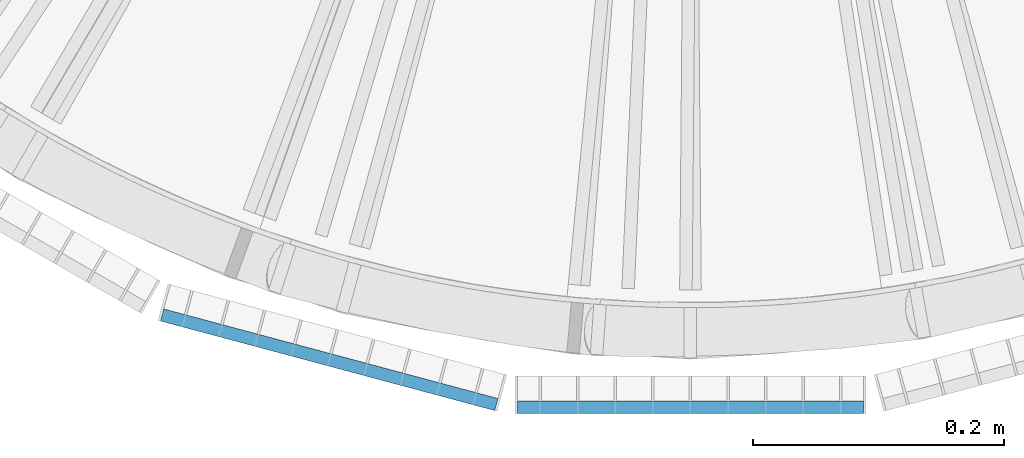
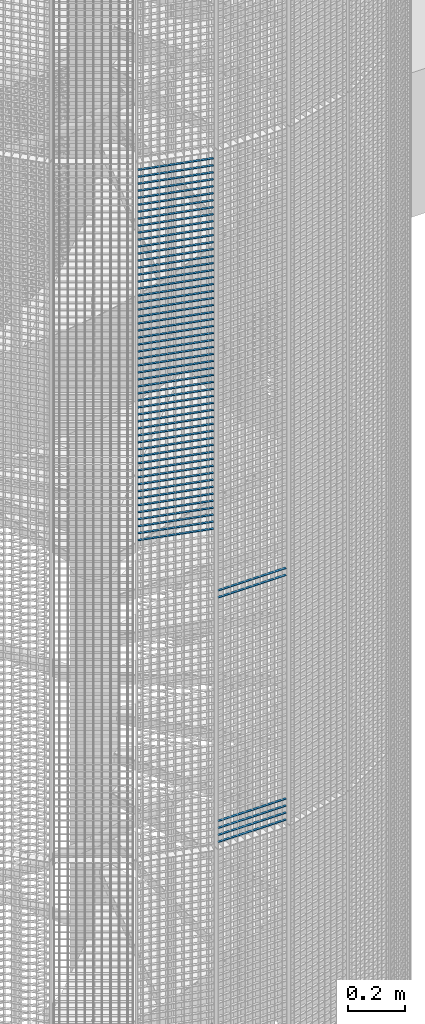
# One storey, part 156 of 1148: 60 beams, 2 elements without a shape of their own.
"""IFC2X3 building model written with IfcOpenShell, lengths in millimetres."""

from ifc_helpers import new_model, si_unit, frame, origin_with_axes, origin_2d_with_axis, place, context, subcontext, project, spatial, rectangle, extrude, material, type_object, element, aggregate, save


model = new_model("IFC2X3")

# Units and contexts
model_context = context("Model", 3, precision=1e-05, world=origin_with_axes())
body_context = subcontext(model_context, "Body", "Model", "MODEL_VIEW")
ifc_project = project(units=[si_unit("LENGTHUNIT", "METRE", prefix="MILLI"), si_unit("AREAUNIT", "SQUARE_METRE"), si_unit("VOLUMEUNIT", "CUBIC_METRE"), si_unit("MASSUNIT", "GRAM", prefix="KILO"), si_unit("TIMEUNIT", "SECOND"), si_unit("PLANEANGLEUNIT", "RADIAN"), si_unit("SOLIDANGLEUNIT", "STERADIAN"), si_unit("THERMODYNAMICTEMPERATUREUNIT", "DEGREE_CELSIUS"), si_unit("LUMINOUSINTENSITYUNIT", "LUMEN")], contexts=[model_context])

# Site, building, storey
site_placement = place(None, origin_with_axes())
site = spatial("IfcSite", under=ifc_project, at=site_placement, Name="Undefined", CompositionType="ELEMENT")
building_placement = place(site_placement, origin_with_axes())
building = spatial("IfcBuilding", under=site, at=building_placement, Name="Undefined", CompositionType="ELEMENT")
storey_placement = place(building_placement, origin_with_axes())
storey = spatial("IfcBuildingStorey", under=building, at=storey_placement, Name="Undefined", CompositionType="ELEMENT", Elevation=0.0)

# Assembly, beams
assembly_1_placement = place(storey_placement, origin_with_axes())
assembly_1 = element("IfcElementAssembly", 1, at=assembly_1_placement, inside=storey, Name="BORDURE", AssemblyPlace="NOTDEFINED", PredefinedType="NOTDEFINED")
ifc_material = material(Name="STEEL/S235JR")
beam_type = type_object("IfcBeamType", Name="PL2*10", PredefinedType="NOTDEFINED")
beam_1_placement = place(assembly_1_placement, frame((-137.996003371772, -1113.47999999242, 6120.0), z_axis=(0.0, -1.0, 0.0), x_axis=(1.0, 0.0, 0.0)))
beam_1 = element("IfcBeam", 2, at=beam_1_placement, type_object=beam_type, material=ifc_material, Name="ENTRETOISE", context=body_context, shape_type="SweptSolid", body=[
    extrude(rectangle(XDim=2.0, YDim=10.0, at=origin_2d_with_axis()), frame((275.999999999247, 9.09494701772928e-13, 1.53210777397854e-14), z_axis=(-1.0, 0.0, 0.0), x_axis=(0.0, -1.0, 0.0)), (0.0, 0.0, 1.0), 276.0),
])
beam_2_placement = place(assembly_1_placement, frame((-137.996003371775, -1113.47999999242, 7080.0), z_axis=(0.0, -1.0, 0.0), x_axis=(1.0, 0.0, 0.0)))
beam_2 = element("IfcBeam", 3, at=beam_2_placement, type_object=beam_type, material=ifc_material, Name="ENTRETOISE", context=body_context, shape_type="SweptSolid", body=[
    extrude(rectangle(XDim=2.0, YDim=10.0, at=origin_2d_with_axis()), frame((275.999999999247, 9.09494701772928e-13, 1.53210777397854e-14), z_axis=(-1.0, 0.0, 0.0), x_axis=(0.0, -1.0, 0.0)), (0.0, 0.0, 1.0), 276.0),
])
beam_3_placement = place(assembly_1_placement, frame((-137.996003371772, -1113.47999999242, 6090.0), z_axis=(0.0, -1.0, 0.0), x_axis=(1.0, 0.0, 0.0)))
beam_3 = element("IfcBeam", 4, at=beam_3_placement, type_object=beam_type, material=ifc_material, Name="ENTRETOISE", context=body_context, shape_type="SweptSolid", body=[
    extrude(rectangle(XDim=2.0, YDim=10.0, at=origin_2d_with_axis()), frame((275.999999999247, 9.09494701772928e-13, 1.53210777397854e-14), z_axis=(-1.0, 0.0, 0.0), x_axis=(0.0, -1.0, 0.0)), (0.0, 0.0, 1.0), 276.0),
])
beam_4_placement = place(assembly_1_placement, frame((-137.996003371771, -1113.47999999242, 6060.0), z_axis=(0.0, -1.0, 0.0), x_axis=(1.0, 0.0, 0.0)))
beam_4 = element("IfcBeam", 5, at=beam_4_placement, type_object=beam_type, material=ifc_material, Name="ENTRETOISE", context=body_context, shape_type="SweptSolid", body=[
    extrude(rectangle(XDim=2.0, YDim=10.0, at=origin_2d_with_axis()), frame((275.999999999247, 9.09494701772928e-13, 1.53210777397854e-14), z_axis=(-1.0, 0.0, 0.0), x_axis=(0.0, -1.0, 0.0)), (0.0, 0.0, 1.0), 276.0),
])
beam_5_placement = place(assembly_1_placement, frame((-137.996003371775, -1113.47999999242, 7110.0), z_axis=(0.0, -1.0, 0.0), x_axis=(1.0, 0.0, 0.0)))
beam_5 = element("IfcBeam", 6, at=beam_5_placement, type_object=beam_type, material=ifc_material, Name="ENTRETOISE", context=body_context, shape_type="SweptSolid", body=[
    extrude(rectangle(XDim=2.0, YDim=10.0, at=origin_2d_with_axis()), frame((275.999999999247, 9.09494701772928e-13, 1.53210777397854e-14), z_axis=(-1.0, 0.0, 0.0), x_axis=(0.0, -1.0, 0.0)), (0.0, 0.0, 1.0), 276.0),
])
beam_6_placement = place(assembly_1_placement, frame((-137.99600337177, -1113.47999999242, 6030.0), z_axis=(0.0, -1.0, 0.0), x_axis=(1.0, 0.0, 0.0)))
beam_6 = element("IfcBeam", 7, at=beam_6_placement, type_object=beam_type, material=ifc_material, Name="ENTRETOISE", context=body_context, shape_type="SweptSolid", body=[
    extrude(rectangle(XDim=2.0, YDim=10.0, at=origin_2d_with_axis()), frame((275.999999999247, 9.09494701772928e-13, 1.53210777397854e-14), z_axis=(-1.0, 0.0, 0.0), x_axis=(0.0, -1.0, 0.0)), (0.0, 0.0, 1.0), 276.0),
])
aggregate(assembly_1, [beam_1, beam_2, beam_3, beam_4, beam_5, beam_6])

assembly_2_placement = place(storey_placement, origin_with_axes())
assembly_2 = element("IfcElementAssembly", 8, at=assembly_2_placement, inside=storey, Name="BORDURE", AssemblyPlace="NOTDEFINED", PredefinedType="NOTDEFINED")
beam_7_placement = place(assembly_2_placement, frame((-421.483733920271, -1039.82309522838, 8970.0), z_axis=(-0.258819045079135, -0.965925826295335, 0.0), x_axis=(0.965925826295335, -0.258819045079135, 0.0)))
beam_7 = element("IfcBeam", 9, at=beam_7_placement, type_object=beam_type, material=ifc_material, Name="ENTRETOISE", context=body_context, shape_type="SweptSolid", body=[
    extrude(rectangle(XDim=2.0, YDim=10.0, at=origin_2d_with_axis()), frame((275.999999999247, 9.09494701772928e-13, 1.53210777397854e-14), z_axis=(-1.0, 0.0, 0.0), x_axis=(0.0, -1.0, 0.0)), (0.0, 0.0, 1.0), 276.0),
])
beam_8_placement = place(assembly_2_placement, frame((-421.483733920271, -1039.82309522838, 8940.0), z_axis=(-0.258819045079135, -0.965925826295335, 0.0), x_axis=(0.965925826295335, -0.258819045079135, 0.0)))
beam_8 = element("IfcBeam", 10, at=beam_8_placement, type_object=beam_type, material=ifc_material, Name="ENTRETOISE", context=body_context, shape_type="SweptSolid", body=[
    extrude(rectangle(XDim=2.0, YDim=10.0, at=origin_2d_with_axis()), frame((275.999999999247, 9.09494701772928e-13, 1.53210777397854e-14), z_axis=(-1.0, 0.0, 0.0), x_axis=(0.0, -1.0, 0.0)), (0.0, 0.0, 1.0), 276.0),
])
beam_9_placement = place(assembly_2_placement, frame((-421.483733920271, -1039.82309522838, 8910.0), z_axis=(-0.258819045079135, -0.965925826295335, 0.0), x_axis=(0.965925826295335, -0.258819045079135, 0.0)))
beam_9 = element("IfcBeam", 11, at=beam_9_placement, type_object=beam_type, material=ifc_material, Name="ENTRETOISE", context=body_context, shape_type="SweptSolid", body=[
    extrude(rectangle(XDim=2.0, YDim=10.0, at=origin_2d_with_axis()), frame((275.999999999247, 9.09494701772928e-13, 1.53210777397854e-14), z_axis=(-1.0, 0.0, 0.0), x_axis=(0.0, -1.0, 0.0)), (0.0, 0.0, 1.0), 276.0),
])
beam_10_placement = place(assembly_2_placement, frame((-421.483733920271, -1039.82309522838, 8880.0), z_axis=(-0.258819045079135, -0.965925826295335, 0.0), x_axis=(0.965925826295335, -0.258819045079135, 0.0)))
beam_10 = element("IfcBeam", 12, at=beam_10_placement, type_object=beam_type, material=ifc_material, Name="ENTRETOISE", context=body_context, shape_type="SweptSolid", body=[
    extrude(rectangle(XDim=2.0, YDim=10.0, at=origin_2d_with_axis()), frame((275.999999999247, 9.09494701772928e-13, 1.53210777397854e-14), z_axis=(-1.0, 0.0, 0.0), x_axis=(0.0, -1.0, 0.0)), (0.0, 0.0, 1.0), 276.0),
])
beam_11_placement = place(assembly_2_placement, frame((-421.483733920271, -1039.82309522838, 8850.0), z_axis=(-0.258819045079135, -0.965925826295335, 0.0), x_axis=(0.965925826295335, -0.258819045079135, 0.0)))
beam_11 = element("IfcBeam", 13, at=beam_11_placement, type_object=beam_type, material=ifc_material, Name="ENTRETOISE", context=body_context, shape_type="SweptSolid", body=[
    extrude(rectangle(XDim=2.0, YDim=10.0, at=origin_2d_with_axis()), frame((275.999999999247, 9.09494701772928e-13, 1.53210777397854e-14), z_axis=(-1.0, 0.0, 0.0), x_axis=(0.0, -1.0, 0.0)), (0.0, 0.0, 1.0), 276.0),
])
beam_12_placement = place(assembly_2_placement, frame((-421.483733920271, -1039.82309522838, 8820.0), z_axis=(-0.258819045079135, -0.965925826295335, 0.0), x_axis=(0.965925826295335, -0.258819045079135, 0.0)))
beam_12 = element("IfcBeam", 14, at=beam_12_placement, type_object=beam_type, material=ifc_material, Name="ENTRETOISE", context=body_context, shape_type="SweptSolid", body=[
    extrude(rectangle(XDim=2.0, YDim=10.0, at=origin_2d_with_axis()), frame((275.999999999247, 9.09494701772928e-13, 1.53210777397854e-14), z_axis=(-1.0, 0.0, 0.0), x_axis=(0.0, -1.0, 0.0)), (0.0, 0.0, 1.0), 276.0),
])
beam_13_placement = place(assembly_2_placement, frame((-421.483733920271, -1039.82309522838, 8790.0), z_axis=(-0.258819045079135, -0.965925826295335, 0.0), x_axis=(0.965925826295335, -0.258819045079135, 0.0)))
beam_13 = element("IfcBeam", 15, at=beam_13_placement, type_object=beam_type, material=ifc_material, Name="ENTRETOISE", context=body_context, shape_type="SweptSolid", body=[
    extrude(rectangle(XDim=2.0, YDim=10.0, at=origin_2d_with_axis()), frame((275.999999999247, 9.09494701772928e-13, 1.53210777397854e-14), z_axis=(-1.0, 0.0, 0.0), x_axis=(0.0, -1.0, 0.0)), (0.0, 0.0, 1.0), 276.0),
])
beam_14_placement = place(assembly_2_placement, frame((-421.483733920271, -1039.82309522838, 8760.0), z_axis=(-0.258819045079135, -0.965925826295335, 0.0), x_axis=(0.965925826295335, -0.258819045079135, 0.0)))
beam_14 = element("IfcBeam", 16, at=beam_14_placement, type_object=beam_type, material=ifc_material, Name="ENTRETOISE", context=body_context, shape_type="SweptSolid", body=[
    extrude(rectangle(XDim=2.0, YDim=10.0, at=origin_2d_with_axis()), frame((275.999999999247, 9.09494701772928e-13, 1.53210777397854e-14), z_axis=(-1.0, 0.0, 0.0), x_axis=(0.0, -1.0, 0.0)), (0.0, 0.0, 1.0), 276.0),
])
beam_15_placement = place(assembly_2_placement, frame((-421.483733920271, -1039.82309522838, 8730.0), z_axis=(-0.258819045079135, -0.965925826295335, 0.0), x_axis=(0.965925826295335, -0.258819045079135, 0.0)))
beam_15 = element("IfcBeam", 17, at=beam_15_placement, type_object=beam_type, material=ifc_material, Name="ENTRETOISE", context=body_context, shape_type="SweptSolid", body=[
    extrude(rectangle(XDim=2.0, YDim=10.0, at=origin_2d_with_axis()), frame((275.999999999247, 9.09494701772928e-13, 1.53210777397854e-14), z_axis=(-1.0, 0.0, 0.0), x_axis=(0.0, -1.0, 0.0)), (0.0, 0.0, 1.0), 276.0),
])
beam_16_placement = place(assembly_2_placement, frame((-421.48373392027, -1039.82309522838, 8700.0), z_axis=(-0.258819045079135, -0.965925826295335, 0.0), x_axis=(0.965925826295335, -0.258819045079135, 0.0)))
beam_16 = element("IfcBeam", 18, at=beam_16_placement, type_object=beam_type, material=ifc_material, Name="ENTRETOISE", context=body_context, shape_type="SweptSolid", body=[
    extrude(rectangle(XDim=2.0, YDim=10.0, at=origin_2d_with_axis()), frame((275.999999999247, 9.09494701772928e-13, 1.53210777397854e-14), z_axis=(-1.0, 0.0, 0.0), x_axis=(0.0, -1.0, 0.0)), (0.0, 0.0, 1.0), 276.0),
])
beam_17_placement = place(assembly_2_placement, frame((-421.48373392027, -1039.82309522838, 8670.0), z_axis=(-0.258819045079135, -0.965925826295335, 0.0), x_axis=(0.965925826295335, -0.258819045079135, 0.0)))
beam_17 = element("IfcBeam", 19, at=beam_17_placement, type_object=beam_type, material=ifc_material, Name="ENTRETOISE", context=body_context, shape_type="SweptSolid", body=[
    extrude(rectangle(XDim=2.0, YDim=10.0, at=origin_2d_with_axis()), frame((275.999999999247, 9.09494701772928e-13, 1.53210777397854e-14), z_axis=(-1.0, 0.0, 0.0), x_axis=(0.0, -1.0, 0.0)), (0.0, 0.0, 1.0), 276.0),
])
beam_18_placement = place(assembly_2_placement, frame((-421.48373392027, -1039.82309522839, 8640.0), z_axis=(-0.258819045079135, -0.965925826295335, 0.0), x_axis=(0.965925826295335, -0.258819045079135, 0.0)))
beam_18 = element("IfcBeam", 20, at=beam_18_placement, type_object=beam_type, material=ifc_material, Name="ENTRETOISE", context=body_context, shape_type="SweptSolid", body=[
    extrude(rectangle(XDim=2.0, YDim=10.0, at=origin_2d_with_axis()), frame((275.999999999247, 9.09494701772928e-13, 1.53210777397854e-14), z_axis=(-1.0, 0.0, 0.0), x_axis=(0.0, -1.0, 0.0)), (0.0, 0.0, 1.0), 276.0),
])
beam_19_placement = place(assembly_2_placement, frame((-421.48373392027, -1039.82309522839, 8610.0), z_axis=(-0.258819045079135, -0.965925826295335, 0.0), x_axis=(0.965925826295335, -0.258819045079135, 0.0)))
beam_19 = element("IfcBeam", 21, at=beam_19_placement, type_object=beam_type, material=ifc_material, Name="ENTRETOISE", context=body_context, shape_type="SweptSolid", body=[
    extrude(rectangle(XDim=2.0, YDim=10.0, at=origin_2d_with_axis()), frame((275.999999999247, 9.09494701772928e-13, 1.53210777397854e-14), z_axis=(-1.0, 0.0, 0.0), x_axis=(0.0, -1.0, 0.0)), (0.0, 0.0, 1.0), 276.0),
])
beam_20_placement = place(assembly_2_placement, frame((-421.48373392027, -1039.82309522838, 8580.0), z_axis=(-0.258819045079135, -0.965925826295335, 0.0), x_axis=(0.965925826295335, -0.258819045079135, 0.0)))
beam_20 = element("IfcBeam", 22, at=beam_20_placement, type_object=beam_type, material=ifc_material, Name="ENTRETOISE", context=body_context, shape_type="SweptSolid", body=[
    extrude(rectangle(XDim=2.0, YDim=10.0, at=origin_2d_with_axis()), frame((275.999999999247, 9.09494701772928e-13, 1.53210777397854e-14), z_axis=(-1.0, 0.0, 0.0), x_axis=(0.0, -1.0, 0.0)), (0.0, 0.0, 1.0), 276.0),
])
beam_21_placement = place(assembly_2_placement, frame((-421.48373392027, -1039.82309522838, 8550.0), z_axis=(-0.258819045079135, -0.965925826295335, 0.0), x_axis=(0.965925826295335, -0.258819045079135, 0.0)))
beam_21 = element("IfcBeam", 23, at=beam_21_placement, type_object=beam_type, material=ifc_material, Name="ENTRETOISE", context=body_context, shape_type="SweptSolid", body=[
    extrude(rectangle(XDim=2.0, YDim=10.0, at=origin_2d_with_axis()), frame((275.999999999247, 9.09494701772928e-13, 1.53210777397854e-14), z_axis=(-1.0, 0.0, 0.0), x_axis=(0.0, -1.0, 0.0)), (0.0, 0.0, 1.0), 276.0),
])
beam_22_placement = place(assembly_2_placement, frame((-421.48373392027, -1039.82309522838, 8520.0), z_axis=(-0.258819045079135, -0.965925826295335, 0.0), x_axis=(0.965925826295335, -0.258819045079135, 0.0)))
beam_22 = element("IfcBeam", 24, at=beam_22_placement, type_object=beam_type, material=ifc_material, Name="ENTRETOISE", context=body_context, shape_type="SweptSolid", body=[
    extrude(rectangle(XDim=2.0, YDim=10.0, at=origin_2d_with_axis()), frame((275.999999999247, 9.09494701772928e-13, 1.53210777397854e-14), z_axis=(-1.0, 0.0, 0.0), x_axis=(0.0, -1.0, 0.0)), (0.0, 0.0, 1.0), 276.0),
])
beam_23_placement = place(assembly_2_placement, frame((-421.48373392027, -1039.82309522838, 8490.0), z_axis=(-0.258819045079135, -0.965925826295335, 0.0), x_axis=(0.965925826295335, -0.258819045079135, 0.0)))
beam_23 = element("IfcBeam", 25, at=beam_23_placement, type_object=beam_type, material=ifc_material, Name="ENTRETOISE", context=body_context, shape_type="SweptSolid", body=[
    extrude(rectangle(XDim=2.0, YDim=10.0, at=origin_2d_with_axis()), frame((275.999999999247, 9.09494701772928e-13, 1.53210777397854e-14), z_axis=(-1.0, 0.0, 0.0), x_axis=(0.0, -1.0, 0.0)), (0.0, 0.0, 1.0), 276.0),
])
beam_24_placement = place(assembly_2_placement, frame((-421.48373392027, -1039.82309522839, 8460.0), z_axis=(-0.258819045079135, -0.965925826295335, 0.0), x_axis=(0.965925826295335, -0.258819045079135, 0.0)))
beam_24 = element("IfcBeam", 26, at=beam_24_placement, type_object=beam_type, material=ifc_material, Name="ENTRETOISE", context=body_context, shape_type="SweptSolid", body=[
    extrude(rectangle(XDim=2.0, YDim=10.0, at=origin_2d_with_axis()), frame((275.999999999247, 9.09494701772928e-13, 1.53210777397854e-14), z_axis=(-1.0, 0.0, 0.0), x_axis=(0.0, -1.0, 0.0)), (0.0, 0.0, 1.0), 276.0),
])
beam_25_placement = place(assembly_2_placement, frame((-421.48373392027, -1039.82309522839, 8430.0), z_axis=(-0.258819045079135, -0.965925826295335, 0.0), x_axis=(0.965925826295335, -0.258819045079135, 0.0)))
beam_25 = element("IfcBeam", 27, at=beam_25_placement, type_object=beam_type, material=ifc_material, Name="ENTRETOISE", context=body_context, shape_type="SweptSolid", body=[
    extrude(rectangle(XDim=2.0, YDim=10.0, at=origin_2d_with_axis()), frame((275.999999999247, 9.09494701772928e-13, 1.53210777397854e-14), z_axis=(-1.0, 0.0, 0.0), x_axis=(0.0, -1.0, 0.0)), (0.0, 0.0, 1.0), 276.0),
])
beam_26_placement = place(assembly_2_placement, frame((-421.483733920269, -1039.82309522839, 8400.0), z_axis=(-0.258819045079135, -0.965925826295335, 0.0), x_axis=(0.965925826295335, -0.258819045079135, 0.0)))
beam_26 = element("IfcBeam", 28, at=beam_26_placement, type_object=beam_type, material=ifc_material, Name="ENTRETOISE", context=body_context, shape_type="SweptSolid", body=[
    extrude(rectangle(XDim=2.0, YDim=10.0, at=origin_2d_with_axis()), frame((275.999999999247, 9.09494701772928e-13, 1.53210777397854e-14), z_axis=(-1.0, 0.0, 0.0), x_axis=(0.0, -1.0, 0.0)), (0.0, 0.0, 1.0), 276.0),
])
beam_27_placement = place(assembly_2_placement, frame((-421.483733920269, -1039.82309522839, 8370.0), z_axis=(-0.258819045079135, -0.965925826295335, 0.0), x_axis=(0.965925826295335, -0.258819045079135, 0.0)))
beam_27 = element("IfcBeam", 29, at=beam_27_placement, type_object=beam_type, material=ifc_material, Name="ENTRETOISE", context=body_context, shape_type="SweptSolid", body=[
    extrude(rectangle(XDim=2.0, YDim=10.0, at=origin_2d_with_axis()), frame((275.999999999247, 9.09494701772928e-13, 1.53210777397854e-14), z_axis=(-1.0, 0.0, 0.0), x_axis=(0.0, -1.0, 0.0)), (0.0, 0.0, 1.0), 276.0),
])
beam_28_placement = place(assembly_2_placement, frame((-421.483733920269, -1039.82309522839, 8340.0), z_axis=(-0.258819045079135, -0.965925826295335, 0.0), x_axis=(0.965925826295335, -0.258819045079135, 0.0)))
beam_28 = element("IfcBeam", 30, at=beam_28_placement, type_object=beam_type, material=ifc_material, Name="ENTRETOISE", context=body_context, shape_type="SweptSolid", body=[
    extrude(rectangle(XDim=2.0, YDim=10.0, at=origin_2d_with_axis()), frame((275.999999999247, 9.09494701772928e-13, 1.53210777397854e-14), z_axis=(-1.0, 0.0, 0.0), x_axis=(0.0, -1.0, 0.0)), (0.0, 0.0, 1.0), 276.0),
])
beam_29_placement = place(assembly_2_placement, frame((-421.483733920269, -1039.82309522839, 8310.0), z_axis=(-0.258819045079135, -0.965925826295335, 0.0), x_axis=(0.965925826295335, -0.258819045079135, 0.0)))
beam_29 = element("IfcBeam", 31, at=beam_29_placement, type_object=beam_type, material=ifc_material, Name="ENTRETOISE", context=body_context, shape_type="SweptSolid", body=[
    extrude(rectangle(XDim=2.0, YDim=10.0, at=origin_2d_with_axis()), frame((275.999999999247, 9.09494701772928e-13, 1.53210777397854e-14), z_axis=(-1.0, 0.0, 0.0), x_axis=(0.0, -1.0, 0.0)), (0.0, 0.0, 1.0), 276.0),
])
beam_30_placement = place(assembly_2_placement, frame((-421.483733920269, -1039.82309522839, 8280.0), z_axis=(-0.258819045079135, -0.965925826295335, 0.0), x_axis=(0.965925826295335, -0.258819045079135, 0.0)))
beam_30 = element("IfcBeam", 32, at=beam_30_placement, type_object=beam_type, material=ifc_material, Name="ENTRETOISE", context=body_context, shape_type="SweptSolid", body=[
    extrude(rectangle(XDim=2.0, YDim=10.0, at=origin_2d_with_axis()), frame((275.999999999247, 9.09494701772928e-13, 1.53210777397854e-14), z_axis=(-1.0, 0.0, 0.0), x_axis=(0.0, -1.0, 0.0)), (0.0, 0.0, 1.0), 276.0),
])
beam_31_placement = place(assembly_2_placement, frame((-421.483733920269, -1039.82309522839, 8250.0), z_axis=(-0.258819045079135, -0.965925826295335, 0.0), x_axis=(0.965925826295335, -0.258819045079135, 0.0)))
beam_31 = element("IfcBeam", 33, at=beam_31_placement, type_object=beam_type, material=ifc_material, Name="ENTRETOISE", context=body_context, shape_type="SweptSolid", body=[
    extrude(rectangle(XDim=2.0, YDim=10.0, at=origin_2d_with_axis()), frame((275.999999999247, 9.09494701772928e-13, 1.53210777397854e-14), z_axis=(-1.0, 0.0, 0.0), x_axis=(0.0, -1.0, 0.0)), (0.0, 0.0, 1.0), 276.0),
])
beam_32_placement = place(assembly_2_placement, frame((-421.483733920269, -1039.82309522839, 8220.0), z_axis=(-0.258819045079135, -0.965925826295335, 0.0), x_axis=(0.965925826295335, -0.258819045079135, 0.0)))
beam_32 = element("IfcBeam", 34, at=beam_32_placement, type_object=beam_type, material=ifc_material, Name="ENTRETOISE", context=body_context, shape_type="SweptSolid", body=[
    extrude(rectangle(XDim=2.0, YDim=10.0, at=origin_2d_with_axis()), frame((275.999999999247, 9.09494701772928e-13, 1.53210777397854e-14), z_axis=(-1.0, 0.0, 0.0), x_axis=(0.0, -1.0, 0.0)), (0.0, 0.0, 1.0), 276.0),
])
beam_33_placement = place(assembly_2_placement, frame((-421.483733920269, -1039.82309522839, 8190.0), z_axis=(-0.258819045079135, -0.965925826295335, 0.0), x_axis=(0.965925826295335, -0.258819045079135, 0.0)))
beam_33 = element("IfcBeam", 35, at=beam_33_placement, type_object=beam_type, material=ifc_material, Name="ENTRETOISE", context=body_context, shape_type="SweptSolid", body=[
    extrude(rectangle(XDim=2.0, YDim=10.0, at=origin_2d_with_axis()), frame((275.999999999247, 9.09494701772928e-13, 1.53210777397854e-14), z_axis=(-1.0, 0.0, 0.0), x_axis=(0.0, -1.0, 0.0)), (0.0, 0.0, 1.0), 276.0),
])
beam_34_placement = place(assembly_2_placement, frame((-421.483733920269, -1039.82309522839, 8160.0), z_axis=(-0.258819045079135, -0.965925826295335, 0.0), x_axis=(0.965925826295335, -0.258819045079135, 0.0)))
beam_34 = element("IfcBeam", 36, at=beam_34_placement, type_object=beam_type, material=ifc_material, Name="ENTRETOISE", context=body_context, shape_type="SweptSolid", body=[
    extrude(rectangle(XDim=2.0, YDim=10.0, at=origin_2d_with_axis()), frame((275.999999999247, 9.09494701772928e-13, 1.53210777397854e-14), z_axis=(-1.0, 0.0, 0.0), x_axis=(0.0, -1.0, 0.0)), (0.0, 0.0, 1.0), 276.0),
])
beam_35_placement = place(assembly_2_placement, frame((-421.483733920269, -1039.82309522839, 8130.0), z_axis=(-0.258819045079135, -0.965925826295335, 0.0), x_axis=(0.965925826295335, -0.258819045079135, 0.0)))
beam_35 = element("IfcBeam", 37, at=beam_35_placement, type_object=beam_type, material=ifc_material, Name="ENTRETOISE", context=body_context, shape_type="SweptSolid", body=[
    extrude(rectangle(XDim=2.0, YDim=10.0, at=origin_2d_with_axis()), frame((275.999999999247, 9.09494701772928e-13, 1.53210777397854e-14), z_axis=(-1.0, 0.0, 0.0), x_axis=(0.0, -1.0, 0.0)), (0.0, 0.0, 1.0), 276.0),
])
beam_36_placement = place(assembly_2_placement, frame((-421.483733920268, -1039.82309522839, 8100.0), z_axis=(-0.258819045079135, -0.965925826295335, 0.0), x_axis=(0.965925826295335, -0.258819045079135, 0.0)))
beam_36 = element("IfcBeam", 38, at=beam_36_placement, type_object=beam_type, material=ifc_material, Name="ENTRETOISE", context=body_context, shape_type="SweptSolid", body=[
    extrude(rectangle(XDim=2.0, YDim=10.0, at=origin_2d_with_axis()), frame((275.999999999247, 9.09494701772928e-13, 1.53210777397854e-14), z_axis=(-1.0, 0.0, 0.0), x_axis=(0.0, -1.0, 0.0)), (0.0, 0.0, 1.0), 276.0),
])
beam_37_placement = place(assembly_2_placement, frame((-421.483733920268, -1039.82309522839, 8070.0), z_axis=(-0.258819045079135, -0.965925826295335, 0.0), x_axis=(0.965925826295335, -0.258819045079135, 0.0)))
beam_37 = element("IfcBeam", 39, at=beam_37_placement, type_object=beam_type, material=ifc_material, Name="ENTRETOISE", context=body_context, shape_type="SweptSolid", body=[
    extrude(rectangle(XDim=2.0, YDim=10.0, at=origin_2d_with_axis()), frame((275.999999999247, 9.09494701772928e-13, 1.53210777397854e-14), z_axis=(-1.0, 0.0, 0.0), x_axis=(0.0, -1.0, 0.0)), (0.0, 0.0, 1.0), 276.0),
])
beam_38_placement = place(assembly_2_placement, frame((-421.483733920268, -1039.82309522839, 8040.0), z_axis=(-0.258819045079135, -0.965925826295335, 0.0), x_axis=(0.965925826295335, -0.258819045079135, 0.0)))
beam_38 = element("IfcBeam", 40, at=beam_38_placement, type_object=beam_type, material=ifc_material, Name="ENTRETOISE", context=body_context, shape_type="SweptSolid", body=[
    extrude(rectangle(XDim=2.0, YDim=10.0, at=origin_2d_with_axis()), frame((275.999999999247, 9.09494701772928e-13, 1.53210777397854e-14), z_axis=(-1.0, 0.0, 0.0), x_axis=(0.0, -1.0, 0.0)), (0.0, 0.0, 1.0), 276.0),
])
beam_39_placement = place(assembly_2_placement, frame((-421.483733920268, -1039.82309522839, 8010.0), z_axis=(-0.258819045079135, -0.965925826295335, 0.0), x_axis=(0.965925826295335, -0.258819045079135, 0.0)))
beam_39 = element("IfcBeam", 41, at=beam_39_placement, type_object=beam_type, material=ifc_material, Name="ENTRETOISE", context=body_context, shape_type="SweptSolid", body=[
    extrude(rectangle(XDim=2.0, YDim=10.0, at=origin_2d_with_axis()), frame((275.999999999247, 9.09494701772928e-13, 1.53210777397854e-14), z_axis=(-1.0, 0.0, 0.0), x_axis=(0.0, -1.0, 0.0)), (0.0, 0.0, 1.0), 276.0),
])
beam_40_placement = place(assembly_2_placement, frame((-421.483733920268, -1039.82309522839, 7980.0), z_axis=(-0.258819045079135, -0.965925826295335, 0.0), x_axis=(0.965925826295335, -0.258819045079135, 0.0)))
beam_40 = element("IfcBeam", 42, at=beam_40_placement, type_object=beam_type, material=ifc_material, Name="ENTRETOISE", context=body_context, shape_type="SweptSolid", body=[
    extrude(rectangle(XDim=2.0, YDim=10.0, at=origin_2d_with_axis()), frame((275.999999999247, 9.09494701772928e-13, 1.53210777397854e-14), z_axis=(-1.0, 0.0, 0.0), x_axis=(0.0, -1.0, 0.0)), (0.0, 0.0, 1.0), 276.0),
])
beam_41_placement = place(assembly_2_placement, frame((-421.483733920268, -1039.82309522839, 7950.0), z_axis=(-0.258819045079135, -0.965925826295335, 0.0), x_axis=(0.965925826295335, -0.258819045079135, 0.0)))
beam_41 = element("IfcBeam", 43, at=beam_41_placement, type_object=beam_type, material=ifc_material, Name="ENTRETOISE", context=body_context, shape_type="SweptSolid", body=[
    extrude(rectangle(XDim=2.0, YDim=10.0, at=origin_2d_with_axis()), frame((275.999999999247, 9.09494701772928e-13, 1.53210777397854e-14), z_axis=(-1.0, 0.0, 0.0), x_axis=(0.0, -1.0, 0.0)), (0.0, 0.0, 1.0), 276.0),
])
beam_42_placement = place(assembly_2_placement, frame((-421.483733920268, -1039.82309522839, 7920.0), z_axis=(-0.258819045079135, -0.965925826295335, 0.0), x_axis=(0.965925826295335, -0.258819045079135, 0.0)))
beam_42 = element("IfcBeam", 44, at=beam_42_placement, type_object=beam_type, material=ifc_material, Name="ENTRETOISE", context=body_context, shape_type="SweptSolid", body=[
    extrude(rectangle(XDim=2.0, YDim=10.0, at=origin_2d_with_axis()), frame((275.999999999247, 9.09494701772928e-13, 1.53210777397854e-14), z_axis=(-1.0, 0.0, 0.0), x_axis=(0.0, -1.0, 0.0)), (0.0, 0.0, 1.0), 276.0),
])
beam_43_placement = place(assembly_2_placement, frame((-421.483733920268, -1039.82309522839, 7890.0), z_axis=(-0.258819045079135, -0.965925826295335, 0.0), x_axis=(0.965925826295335, -0.258819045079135, 0.0)))
beam_43 = element("IfcBeam", 45, at=beam_43_placement, type_object=beam_type, material=ifc_material, Name="ENTRETOISE", context=body_context, shape_type="SweptSolid", body=[
    extrude(rectangle(XDim=2.0, YDim=10.0, at=origin_2d_with_axis()), frame((275.999999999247, 9.09494701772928e-13, 1.53210777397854e-14), z_axis=(-1.0, 0.0, 0.0), x_axis=(0.0, -1.0, 0.0)), (0.0, 0.0, 1.0), 276.0),
])
beam_44_placement = place(assembly_2_placement, frame((-421.483733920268, -1039.82309522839, 7860.0), z_axis=(-0.258819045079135, -0.965925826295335, 0.0), x_axis=(0.965925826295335, -0.258819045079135, 0.0)))
beam_44 = element("IfcBeam", 46, at=beam_44_placement, type_object=beam_type, material=ifc_material, Name="ENTRETOISE", context=body_context, shape_type="SweptSolid", body=[
    extrude(rectangle(XDim=2.0, YDim=10.0, at=origin_2d_with_axis()), frame((275.999999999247, 9.09494701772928e-13, 1.53210777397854e-14), z_axis=(-1.0, 0.0, 0.0), x_axis=(0.0, -1.0, 0.0)), (0.0, 0.0, 1.0), 276.0),
])
beam_45_placement = place(assembly_2_placement, frame((-421.483733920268, -1039.82309522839, 7830.0), z_axis=(-0.258819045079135, -0.965925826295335, 0.0), x_axis=(0.965925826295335, -0.258819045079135, 0.0)))
beam_45 = element("IfcBeam", 47, at=beam_45_placement, type_object=beam_type, material=ifc_material, Name="ENTRETOISE", context=body_context, shape_type="SweptSolid", body=[
    extrude(rectangle(XDim=2.0, YDim=10.0, at=origin_2d_with_axis()), frame((275.999999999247, 9.09494701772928e-13, 1.53210777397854e-14), z_axis=(-1.0, 0.0, 0.0), x_axis=(0.0, -1.0, 0.0)), (0.0, 0.0, 1.0), 276.0),
])
beam_46_placement = place(assembly_2_placement, frame((-421.483733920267, -1039.82309522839, 7800.0), z_axis=(-0.258819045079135, -0.965925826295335, 0.0), x_axis=(0.965925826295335, -0.258819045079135, 0.0)))
beam_46 = element("IfcBeam", 48, at=beam_46_placement, type_object=beam_type, material=ifc_material, Name="ENTRETOISE", context=body_context, shape_type="SweptSolid", body=[
    extrude(rectangle(XDim=2.0, YDim=10.0, at=origin_2d_with_axis()), frame((275.999999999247, 9.09494701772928e-13, 1.53210777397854e-14), z_axis=(-1.0, 0.0, 0.0), x_axis=(0.0, -1.0, 0.0)), (0.0, 0.0, 1.0), 276.0),
])
beam_47_placement = place(assembly_2_placement, frame((-421.483733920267, -1039.82309522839, 7770.0), z_axis=(-0.258819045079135, -0.965925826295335, 0.0), x_axis=(0.965925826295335, -0.258819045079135, 0.0)))
beam_47 = element("IfcBeam", 49, at=beam_47_placement, type_object=beam_type, material=ifc_material, Name="ENTRETOISE", context=body_context, shape_type="SweptSolid", body=[
    extrude(rectangle(XDim=2.0, YDim=10.0, at=origin_2d_with_axis()), frame((275.999999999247, 9.09494701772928e-13, 1.53210777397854e-14), z_axis=(-1.0, 0.0, 0.0), x_axis=(0.0, -1.0, 0.0)), (0.0, 0.0, 1.0), 276.0),
])
beam_48_placement = place(assembly_2_placement, frame((-421.483733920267, -1039.82309522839, 7740.0), z_axis=(-0.258819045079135, -0.965925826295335, 0.0), x_axis=(0.965925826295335, -0.258819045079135, 0.0)))
beam_48 = element("IfcBeam", 50, at=beam_48_placement, type_object=beam_type, material=ifc_material, Name="ENTRETOISE", context=body_context, shape_type="SweptSolid", body=[
    extrude(rectangle(XDim=2.0, YDim=10.0, at=origin_2d_with_axis()), frame((275.999999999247, 9.09494701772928e-13, 1.53210777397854e-14), z_axis=(-1.0, 0.0, 0.0), x_axis=(0.0, -1.0, 0.0)), (0.0, 0.0, 1.0), 276.0),
])
beam_49_placement = place(assembly_2_placement, frame((-421.483733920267, -1039.82309522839, 7710.0), z_axis=(-0.258819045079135, -0.965925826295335, 0.0), x_axis=(0.965925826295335, -0.258819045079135, 0.0)))
beam_49 = element("IfcBeam", 51, at=beam_49_placement, type_object=beam_type, material=ifc_material, Name="ENTRETOISE", context=body_context, shape_type="SweptSolid", body=[
    extrude(rectangle(XDim=2.0, YDim=10.0, at=origin_2d_with_axis()), frame((275.999999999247, 9.09494701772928e-13, 1.53210777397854e-14), z_axis=(-1.0, 0.0, 0.0), x_axis=(0.0, -1.0, 0.0)), (0.0, 0.0, 1.0), 276.0),
])
beam_50_placement = place(assembly_2_placement, frame((-421.483733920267, -1039.82309522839, 7680.0), z_axis=(-0.258819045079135, -0.965925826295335, 0.0), x_axis=(0.965925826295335, -0.258819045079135, 0.0)))
beam_50 = element("IfcBeam", 52, at=beam_50_placement, type_object=beam_type, material=ifc_material, Name="ENTRETOISE", context=body_context, shape_type="SweptSolid", body=[
    extrude(rectangle(XDim=2.0, YDim=10.0, at=origin_2d_with_axis()), frame((275.999999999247, 9.09494701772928e-13, 1.53210777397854e-14), z_axis=(-1.0, 0.0, 0.0), x_axis=(0.0, -1.0, 0.0)), (0.0, 0.0, 1.0), 276.0),
])
beam_51_placement = place(assembly_2_placement, frame((-421.483733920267, -1039.82309522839, 7650.0), z_axis=(-0.258819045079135, -0.965925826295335, 0.0), x_axis=(0.965925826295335, -0.258819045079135, 0.0)))
beam_51 = element("IfcBeam", 53, at=beam_51_placement, type_object=beam_type, material=ifc_material, Name="ENTRETOISE", context=body_context, shape_type="SweptSolid", body=[
    extrude(rectangle(XDim=2.0, YDim=10.0, at=origin_2d_with_axis()), frame((275.999999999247, 9.09494701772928e-13, 1.53210777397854e-14), z_axis=(-1.0, 0.0, 0.0), x_axis=(0.0, -1.0, 0.0)), (0.0, 0.0, 1.0), 276.0),
])
beam_52_placement = place(assembly_2_placement, frame((-421.483733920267, -1039.82309522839, 7620.0), z_axis=(-0.258819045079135, -0.965925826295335, 0.0), x_axis=(0.965925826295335, -0.258819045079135, 0.0)))
beam_52 = element("IfcBeam", 54, at=beam_52_placement, type_object=beam_type, material=ifc_material, Name="ENTRETOISE", context=body_context, shape_type="SweptSolid", body=[
    extrude(rectangle(XDim=2.0, YDim=10.0, at=origin_2d_with_axis()), frame((275.999999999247, 9.09494701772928e-13, 1.53210777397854e-14), z_axis=(-1.0, 0.0, 0.0), x_axis=(0.0, -1.0, 0.0)), (0.0, 0.0, 1.0), 276.0),
])
beam_53_placement = place(assembly_2_placement, frame((-421.483733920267, -1039.82309522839, 7590.0), z_axis=(-0.258819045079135, -0.965925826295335, 0.0), x_axis=(0.965925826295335, -0.258819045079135, 0.0)))
beam_53 = element("IfcBeam", 55, at=beam_53_placement, type_object=beam_type, material=ifc_material, Name="ENTRETOISE", context=body_context, shape_type="SweptSolid", body=[
    extrude(rectangle(XDim=2.0, YDim=10.0, at=origin_2d_with_axis()), frame((275.999999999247, 9.09494701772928e-13, 1.53210777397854e-14), z_axis=(-1.0, 0.0, 0.0), x_axis=(0.0, -1.0, 0.0)), (0.0, 0.0, 1.0), 276.0),
])
beam_54_placement = place(assembly_2_placement, frame((-421.483733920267, -1039.82309522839, 7560.0), z_axis=(-0.258819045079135, -0.965925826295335, 0.0), x_axis=(0.965925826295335, -0.258819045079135, 0.0)))
beam_54 = element("IfcBeam", 56, at=beam_54_placement, type_object=beam_type, material=ifc_material, Name="ENTRETOISE", context=body_context, shape_type="SweptSolid", body=[
    extrude(rectangle(XDim=2.0, YDim=10.0, at=origin_2d_with_axis()), frame((275.999999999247, 9.09494701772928e-13, 1.53210777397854e-14), z_axis=(-1.0, 0.0, 0.0), x_axis=(0.0, -1.0, 0.0)), (0.0, 0.0, 1.0), 276.0),
])
beam_55_placement = place(assembly_2_placement, frame((-421.483733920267, -1039.82309522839, 7530.0), z_axis=(-0.258819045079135, -0.965925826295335, 0.0), x_axis=(0.965925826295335, -0.258819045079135, 0.0)))
beam_55 = element("IfcBeam", 57, at=beam_55_placement, type_object=beam_type, material=ifc_material, Name="ENTRETOISE", context=body_context, shape_type="SweptSolid", body=[
    extrude(rectangle(XDim=2.0, YDim=10.0, at=origin_2d_with_axis()), frame((275.999999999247, 9.09494701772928e-13, 1.53210777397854e-14), z_axis=(-1.0, 0.0, 0.0), x_axis=(0.0, -1.0, 0.0)), (0.0, 0.0, 1.0), 276.0),
])
beam_56_placement = place(assembly_2_placement, frame((-421.483733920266, -1039.82309522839, 7500.0), z_axis=(-0.258819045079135, -0.965925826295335, 0.0), x_axis=(0.965925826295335, -0.258819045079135, 0.0)))
beam_56 = element("IfcBeam", 58, at=beam_56_placement, type_object=beam_type, material=ifc_material, Name="ENTRETOISE", context=body_context, shape_type="SweptSolid", body=[
    extrude(rectangle(XDim=2.0, YDim=10.0, at=origin_2d_with_axis()), frame((275.999999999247, 9.09494701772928e-13, 1.53210777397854e-14), z_axis=(-1.0, 0.0, 0.0), x_axis=(0.0, -1.0, 0.0)), (0.0, 0.0, 1.0), 276.0),
])
beam_57_placement = place(assembly_2_placement, frame((-421.483733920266, -1039.82309522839, 7470.0), z_axis=(-0.258819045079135, -0.965925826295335, 0.0), x_axis=(0.965925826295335, -0.258819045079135, 0.0)))
beam_57 = element("IfcBeam", 59, at=beam_57_placement, type_object=beam_type, material=ifc_material, Name="ENTRETOISE", context=body_context, shape_type="SweptSolid", body=[
    extrude(rectangle(XDim=2.0, YDim=10.0, at=origin_2d_with_axis()), frame((275.999999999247, 9.09494701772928e-13, 1.53210777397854e-14), z_axis=(-1.0, 0.0, 0.0), x_axis=(0.0, -1.0, 0.0)), (0.0, 0.0, 1.0), 276.0),
])
beam_58_placement = place(assembly_2_placement, frame((-421.483733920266, -1039.82309522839, 7440.0), z_axis=(-0.258819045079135, -0.965925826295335, 0.0), x_axis=(0.965925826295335, -0.258819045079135, 0.0)))
beam_58 = element("IfcBeam", 60, at=beam_58_placement, type_object=beam_type, material=ifc_material, Name="ENTRETOISE", context=body_context, shape_type="SweptSolid", body=[
    extrude(rectangle(XDim=2.0, YDim=10.0, at=origin_2d_with_axis()), frame((275.999999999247, 9.09494701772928e-13, 1.53210777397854e-14), z_axis=(-1.0, 0.0, 0.0), x_axis=(0.0, -1.0, 0.0)), (0.0, 0.0, 1.0), 276.0),
])
beam_59_placement = place(assembly_2_placement, frame((-421.483733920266, -1039.82309522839, 7410.0), z_axis=(-0.258819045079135, -0.965925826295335, 0.0), x_axis=(0.965925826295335, -0.258819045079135, 0.0)))
beam_59 = element("IfcBeam", 61, at=beam_59_placement, type_object=beam_type, material=ifc_material, Name="ENTRETOISE", context=body_context, shape_type="SweptSolid", body=[
    extrude(rectangle(XDim=2.0, YDim=10.0, at=origin_2d_with_axis()), frame((275.999999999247, 9.09494701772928e-13, 1.53210777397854e-14), z_axis=(-1.0, 0.0, 0.0), x_axis=(0.0, -1.0, 0.0)), (0.0, 0.0, 1.0), 276.0),
])
beam_60_placement = place(assembly_2_placement, frame((-421.483733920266, -1039.82309522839, 7380.0), z_axis=(-0.258819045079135, -0.965925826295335, 0.0), x_axis=(0.965925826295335, -0.258819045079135, 0.0)))
beam_60 = element("IfcBeam", 62, at=beam_60_placement, type_object=beam_type, material=ifc_material, Name="ENTRETOISE", context=body_context, shape_type="SweptSolid", body=[
    extrude(rectangle(XDim=2.0, YDim=10.0, at=origin_2d_with_axis()), frame((275.999999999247, 9.09494701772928e-13, 1.53210777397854e-14), z_axis=(-1.0, 0.0, 0.0), x_axis=(0.0, -1.0, 0.0)), (0.0, 0.0, 1.0), 276.0),
])
aggregate(assembly_2, [beam_7, beam_8, beam_9, beam_10, beam_11, beam_12, beam_13, beam_14, beam_15, beam_16, beam_17, beam_18, beam_19, beam_20, beam_21, beam_22, beam_23, beam_24, beam_25, beam_26, beam_27, beam_28, beam_29, beam_30, beam_31, beam_32, beam_33, beam_34, beam_35, beam_36, beam_37, beam_38, beam_39, beam_40, beam_41, beam_42, beam_43, beam_44, beam_45, beam_46, beam_47, beam_48, beam_49, beam_50, beam_51, beam_52, beam_53, beam_54, beam_55, beam_56, beam_57, beam_58, beam_59, beam_60])

save(model, "model.ifc")
